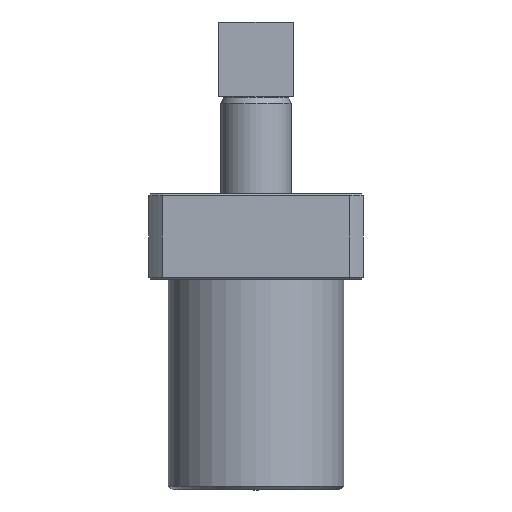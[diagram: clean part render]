
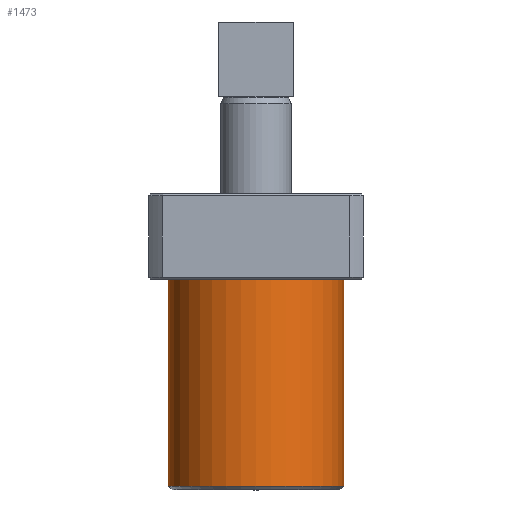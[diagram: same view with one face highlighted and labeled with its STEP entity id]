
A CAD part, left-side view. The second image highlights one B-rep face of the part: STEP entity #1473.
In plain terms, the highlighted cylindrical face has radius 22.5 mm (diameter 45 mm), a full revolution.
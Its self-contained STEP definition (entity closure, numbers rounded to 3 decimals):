
#221=CYLINDRICAL_SURFACE('',#1672,22.5);
#420=ORIENTED_EDGE('',*,*,#721,.T.);
#421=ORIENTED_EDGE('',*,*,#720,.F.);
#720=EDGE_CURVE('',#884,#884,#1002,.T.);
#721=EDGE_CURVE('',#885,#885,#1003,.T.);
#884=VERTEX_POINT('',#2433);
#885=VERTEX_POINT('',#2436);
#1002=CIRCLE('',#1671,22.5);
#1003=CIRCLE('',#1673,22.5);
#1122=EDGE_LOOP('',(#420));
#1123=EDGE_LOOP('',(#421));
#1304=FACE_BOUND('',#1122,.T.);
#1305=FACE_BOUND('',#1123,.T.);
#1473=ADVANCED_FACE('',(#1304,#1305),#221,.T.);
#1671=AXIS2_PLACEMENT_3D('',#2432,#1961,#1962);
#1672=AXIS2_PLACEMENT_3D('',#2434,#1963,#1964);
#1673=AXIS2_PLACEMENT_3D('',#2435,#1965,#1966);
#1961=DIRECTION('',(0.,0.,1.));
#1962=DIRECTION('',(0.,-1.,0.));
#1963=DIRECTION('',(0.,0.,1.));
#1964=DIRECTION('',(0.,-1.,0.));
#1965=DIRECTION('',(0.,0.,1.));
#1966=DIRECTION('',(1.,0.,0.));
#2432=CARTESIAN_POINT('',(0.,29.5,-6.));
#2433=CARTESIAN_POINT('',(0.,7.,-6.));
#2434=CARTESIAN_POINT('',(0.,29.5,-60.));
#2435=CARTESIAN_POINT('',(0.,29.5,-59.));
#2436=CARTESIAN_POINT('',(22.5,29.5,-59.));
